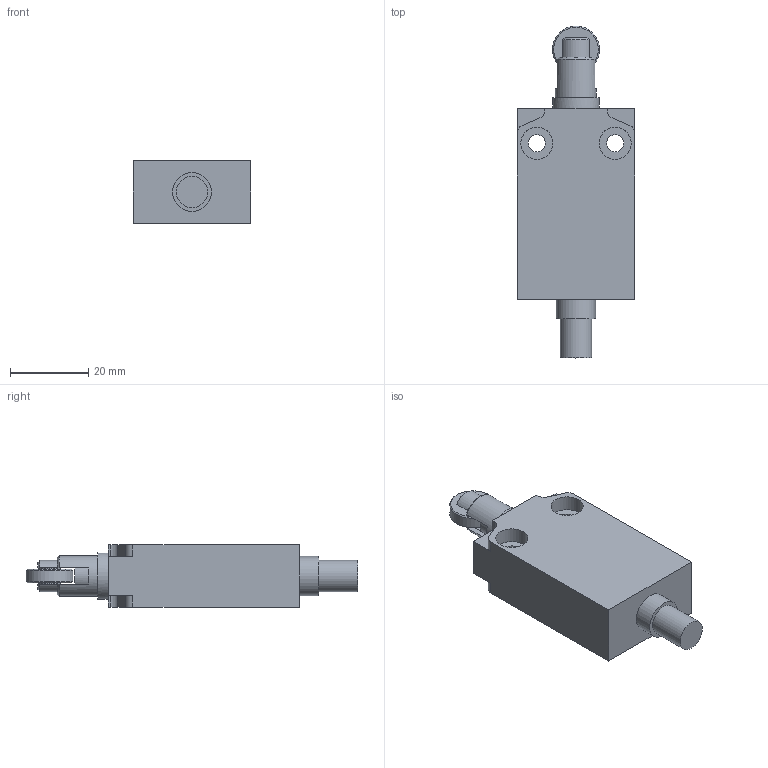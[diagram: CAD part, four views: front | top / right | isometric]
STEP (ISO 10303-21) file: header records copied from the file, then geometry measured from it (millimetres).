
FILE_DESCRIPTION(/* description */ (''),/* implementation_level */ '2;1');
FILE_NAME(/* name */ 'C:\Users\servizio.tecnico\Desktop\BERNSTEIN\3D\STP_EM1_G1201UC.stp',/* time_stamp */ '2020-06-26T09:56:27+02:00',/* author */ ('servizio.tecnico'),/* organization */ (''),/* preprocessor_version */ 'ST-DEVELOPER v17',/* originating_system */ 'Autodesk Inventor 2019',/* authorisation */ '');
FILE_SCHEMA (('AUTOMOTIVE_DESIGN { 1 0 10303 214 3 1 1 }'));
Length unit declared in the file: millimetre
Products named in the file (3): STP_EM1_G12UC; EM1G12; Product
Assembly tree (2 placements, depth 3):
  STP_EM1_G12UC
    EM1G12
      Product
Bounding box: 30 x 84.9 x 16 mm (x, y, z)
Volume: 24219.3 mm3; surface area: 8722.9 mm2
Topology: 4 solids, 4 shells, 99 faces, 245 edges, 164 vertices
Faces by surface type: plane 58, cylinder 31, cone 10
Full cylindrical faces by diameter (mm): 4.4 x2, 5.6 x2, 7.95 x1, 8 x1, 8.05 x1, 8.2 x4, 10 x1, 10.5 x1, 12 x2
Entity records: 3103 total; most frequent: CARTESIAN_POINT 545, DIRECTION 533, ORIENTED_EDGE 490, EDGE_CURVE 245, AXIS2_PLACEMENT_3D 200, VERTEX_POINT 164, LINE 133, VECTOR 133
